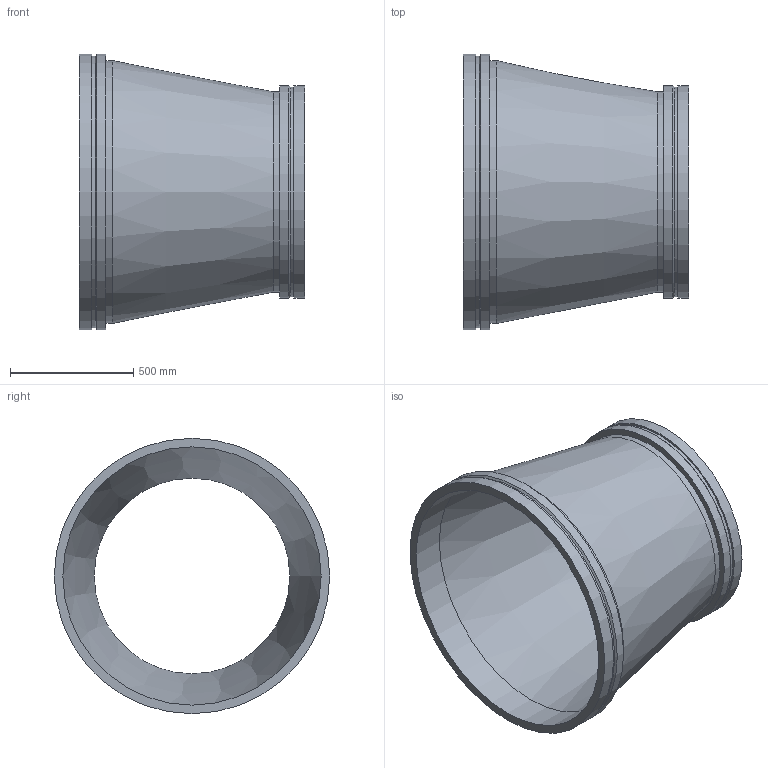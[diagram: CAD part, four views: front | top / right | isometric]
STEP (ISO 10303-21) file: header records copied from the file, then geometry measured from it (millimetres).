
FILE_DESCRIPTION(/* description */ ('VIC REDUCER CONCENTRIC No W50 VR','CAx-IF Rec.Pracs.---Representation and Presentation of Product Manufacturing Information (PMI)---4.0---2014-10-13'),/* implementation_level */ '2;1');
FILE_NAME(/* name */ 'C:\Users\kkamble\AppData\Roaming\Autodesk\ApplicationPlugins\Back Up\Victaulic_Vic-Ring_Reducer Concentric_No W50 VR (AGR)\Victaulic_Vic-Ring_Reducer Concentric_No W50 VR (AGR)_42.0x32.0 (1050x800).stp',/* time_stamp */ '2020-09-10T11:47:35+05:00',/* author */ ('cps_temp'),/* organization */ ('Victaulic'),/* preprocessor_version */ 'ST-DEVELOPER v17.2',/* originating_system */ 'Autodesk Inventor 2019',/* authorisation */ '');
FILE_SCHEMA (('AP242_MANAGED_MODEL_BASED_3D_ENGINEERING_MIM_LF { 1 0 10303 442 1 1 4 }'));
Length unit declared in the file: inch
Products named in the file (1): W50 VR-42.0x32.0
Bounding box: 914.4 x 1117.6 x 1117.6 mm (x, y, z)
Volume: 40870969.1 mm3; surface area: 5885913.4 mm2
Topology: 1 solids, 1 shells, 20 faces, 54 edges, 40 vertices
Faces by surface type: cylinder 10, plane 6, cone 4
Full cylindrical faces by diameter (mm): 793.75 x1, 812.8 x1, 849.122 x1, 863.6 x2, 1047.75 x1, 1066.8 x1, 1101.725 x1, 1117.6 x2
Entity records: 830 total; most frequent: DIRECTION 162, CARTESIAN_POINT 132, ORIENTED_EDGE 108, AXIS2_PLACEMENT_3D 74, EDGE_CURVE 54, CIRCLE 40, VERTEX_POINT 40, EDGE_LOOP 26
